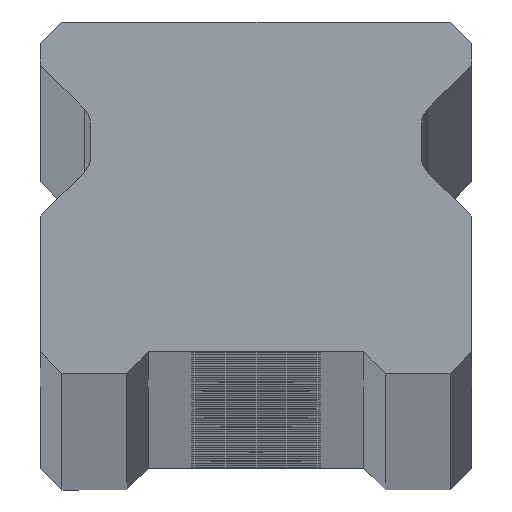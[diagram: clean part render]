
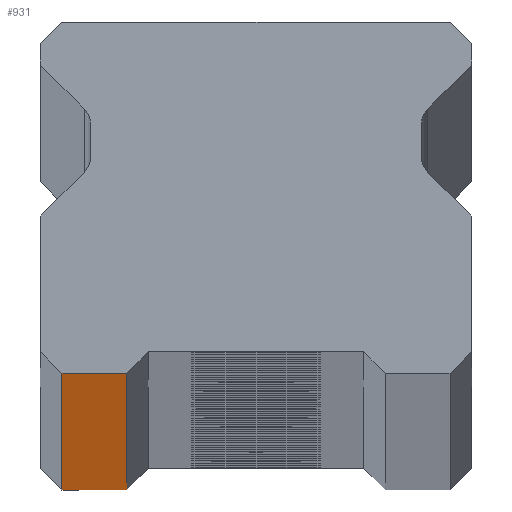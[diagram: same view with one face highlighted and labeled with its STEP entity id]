
A CAD part, top view. The second image highlights one B-rep face of the part: STEP entity #931.
In plain terms, the highlighted planar face has unit normal (0, -1, 0).
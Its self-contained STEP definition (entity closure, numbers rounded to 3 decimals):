
#567 = VECTOR ( 'NONE', #1243, 1000. ) ;
#670 = LINE ( 'NONE', #3154, #567 ) ;
#931 = ADVANCED_FACE ( 'NONE', ( #8411 ), #2587, .F. ) ;
#1206 = DIRECTION ( 'NONE',  ( -1., 0., 0. ) ) ;
#1227 = DIRECTION ( 'NONE',  ( 0., 0., 1. ) ) ;
#1243 = DIRECTION ( 'NONE',  ( 1., 0., 0. ) ) ;
#1268 = CARTESIAN_POINT ( 'NONE',  ( -9., 0., 1550. ) ) ;
#1302 = EDGE_CURVE ( 'NONE', #2246, #1448, #670, .T. ) ;
#1317 = LINE ( 'NONE', #1268, #7212 ) ;
#1445 = EDGE_CURVE ( 'NONE', #5761, #2246, #1317, .T. ) ;
#1448 = VERTEX_POINT ( 'NONE', #7504 ) ;
#2246 = VERTEX_POINT ( 'NONE', #6411 ) ;
#2587 = PLANE ( 'NONE',  #8413 ) ;
#2627 = DIRECTION ( 'NONE',  ( 0., 0., -1. ) ) ;
#2765 = EDGE_CURVE ( 'NONE', #1448, #6429, #5378, .T. ) ;
#3154 = CARTESIAN_POINT ( 'NONE',  ( 10., 0., -1550. ) ) ;
#3993 = EDGE_CURVE ( 'NONE', #5761, #6429, #5570, .T. ) ;
#4797 = DIRECTION ( 'NONE',  ( 1., 0., 0. ) ) ;
#4903 = VECTOR ( 'NONE', #4797, 1000. ) ;
#5058 = CARTESIAN_POINT ( 'NONE',  ( -9., 0., 1550. ) ) ;
#5234 = CARTESIAN_POINT ( 'NONE',  ( 10., 0., 1550. ) ) ;
#5378 = LINE ( 'NONE', #8079, #6978 ) ;
#5570 = LINE ( 'NONE', #7456, #4903 ) ;
#5761 = VERTEX_POINT ( 'NONE', #5058 ) ;
#6114 = CARTESIAN_POINT ( 'NONE',  ( -6., 0., 1550. ) ) ;
#6220 = ORIENTED_EDGE ( 'NONE', *, *, #2765, .T. ) ;
#6411 = CARTESIAN_POINT ( 'NONE',  ( -9., 0., -1550. ) ) ;
#6429 = VERTEX_POINT ( 'NONE', #6114 ) ;
#6978 = VECTOR ( 'NONE', #1227, 1000. ) ;
#7212 = VECTOR ( 'NONE', #2627, 1000. ) ;
#7404 = DIRECTION ( 'NONE',  ( 0., 1., 0. ) ) ;
#7456 = CARTESIAN_POINT ( 'NONE',  ( 10., 0., 1550. ) ) ;
#7475 = ORIENTED_EDGE ( 'NONE', *, *, #1445, .T. ) ;
#7504 = CARTESIAN_POINT ( 'NONE',  ( -6., 0., -1550. ) ) ;
#8056 = ORIENTED_EDGE ( 'NONE', *, *, #3993, .F. ) ;
#8079 = CARTESIAN_POINT ( 'NONE',  ( -6., 0., -1550. ) ) ;
#8151 = ORIENTED_EDGE ( 'NONE', *, *, #1302, .T. ) ;
#8411 = FACE_OUTER_BOUND ( 'NONE', #8567, .T. ) ;
#8413 = AXIS2_PLACEMENT_3D ( 'NONE', #5234, #7404, #1206 ) ;
#8567 = EDGE_LOOP ( 'NONE', ( #8151, #6220, #8056, #7475 ) ) ;
